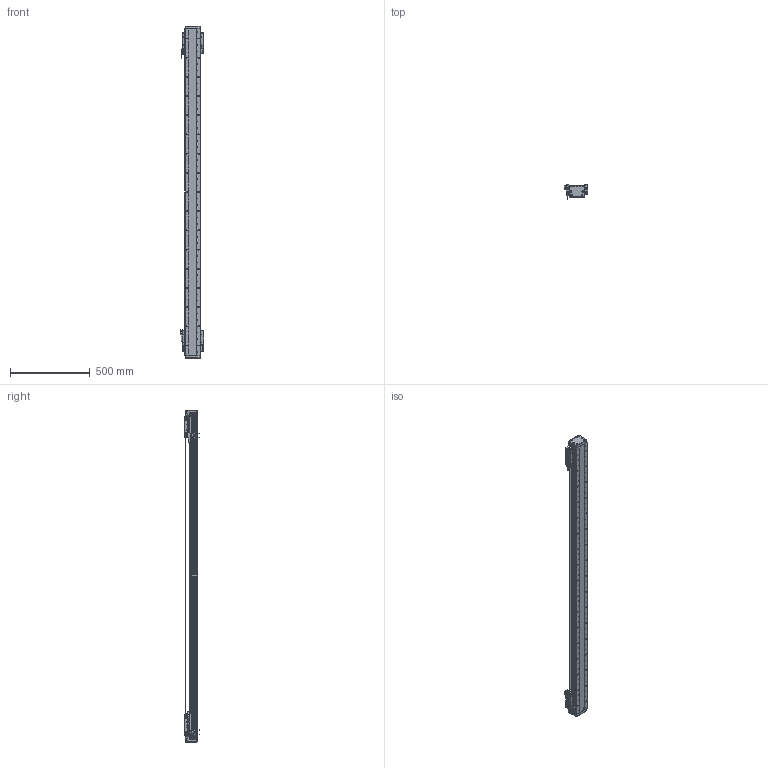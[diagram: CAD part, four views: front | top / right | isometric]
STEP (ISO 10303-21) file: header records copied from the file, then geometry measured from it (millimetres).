
FILE_DESCRIPTION (( 'STEP AP203' ), '1' );
FILE_NAME ('DA-B95-2-B15-T1700-C010-0.2 直线电机.STEP', '2023-05-06T06:33:14', ( '微软用户' ), ( '微软中国' ), 'SwSTEP 2.0', 'SolidWorks 2019', '' );
FILE_SCHEMA (( 'CONFIG_CONTROL_DESIGN' ));
Length unit declared in the file: millimetre
Products named in the file (34): 葩璃 BKMA01-W060-TRL^DA-A95-B15-T-C010-0.2-N 眻盄萇儂; 复件 DA95-HK-GT-00 滑块钢轨^66245-BU95-V-00 一体化滑动台板; 复件 DA95-B15-YB-B-00 压板B^66245-BU95-V 滚珠滑台; 复件 DKW-KGZ-ZJ-00 中间光电开关支架^DA-A95-B15-T-C010-0.2-N 直线电机; 复件 六角薄螺母 M3^DA-A95-B15-T-C010-0.2-N 直线电机_GB_FASTENER_NUT_STNAB M3-C; 66245-BU95-V 幗紩賑怢; 66245-BU95-V-00 珨极趙賑雄怢啣; 葩璃 BKM015-W060-C1-TP-DA-0.2^DA-A95-B15-T-C010-0.2-N 眻盄萇儂; 复件 DA95-DB-00  挡板^66245-BU95-V 滚珠滑台; DA-B95-2-B15-T1700-C010-0.2 眻盄萇儂; 葩璃 PM-Y45^DA-A95-B15-T-C010-0.2-N 眻盄萇儂; DA95-HXJ-00 缓冲橡胶^DA-A95-B15-T-C010-0.2-N 直线电机; 复件 复件 18252-0001-004-00 钢带端盖^DA-A95-B15-T-C010-0.2-N 直线电机; IU-BU95-L-00 菁釱_L2040; 葩璃 DA95-B15-DP--B-00 菜えB^66245-BU95-V 幗紩賑怢; PM-T45 光电开关^DA-A95-B15-T-C010-0.2-N 直线电机; 复件 DA95-B15-YB-A-00 压板A^66245-BU95-V 滚珠滑台; LMDK-2-R001-V5-L02-C1-F00，0.2M 读数头^DA-A95-B15-T-C010-0.2-N 直线电机_DMA-010-0.2; 复件 DA95-MFP-01 密封片^66245-BU95-V 滚珠滑台; 葩璃 DA95-GT-T-00^IU-BU95-L 菁釱絳寢_DA95; 复件 DKW-GYP-ZJ-00 中间光电感应片^DA-A95-B15-T-C010-0.2-N 直线电机; 葩璃 DA95-B15-DP-A-00 菜えA^66245-BU95-V 幗紩賑怢; B15 XD-U-02L ｴﾅﾕ､ｳﾟ^DA-A95-B15-T-C010-0.2-N ﾖｱﾏﾟｵ扈銈XD-U-02L; 复件 66245-BU95-HT-V-01 滑动台板^66245-BU95-V-00 一体化滑动台板; 复件 DA95-B15 钢带盖板^DA-A95-B15-T-C010-0.2-N 直线电机; IU-BU95-L 菁釱絳寢; 复件 纯铜油杯 6x6mm^66245-BU95-V 滚珠滑台; 复件 DKW-HXJ-JY-00 缓冲橡胶^DA-A95-B15-T-C010-0.2-N 直线电机; DA-A95-GYP-00 光电感应片^DA-A95-B15-T-C010-0.2-N 直线电机; 复件 复件 18252-0001-002-00 钢带垫块^DA-A95-B15-T-C010-0.2-N 直线电机; 复件 复件 18252-0001-003-00 钢带拉块^DA-A95-B15-T-C010-0.2-N 直线电机; 复件 DA95-DK-00 挡块^66245-BU95-V 滚珠滑台
Assembly tree (80 placements, depth 4):
  DA-B95-2-B15-T1700-C010-0.2 眻盄萇儂
    IU-BU95-L 菁釱絳寢
      IU-BU95-L-00 菁釱_L2040
      葩璃 DA95-GT-T-00^IU-BU95-L 菁釱絳寢_DA95  x2
    66245-BU95-V 幗紩賑怢
      66245-BU95-V-00 珨极趙賑雄怢啣
        复件 66245-BU95-HT-V-01 滑动台板^66245-BU95-V-00 一体化滑动台板
        复件 DA95-HK-GT-00 滑块钢轨^66245-BU95-V-00 一体化滑动台板  x2
      葩璃 DA95-B15-DP-A-00 菜えA^66245-BU95-V 幗紩賑怢
      复件 DA95-B15-YB-A-00 压板A^66245-BU95-V 滚珠滑台
      复件 DA95-B15-YB-B-00 压板B^66245-BU95-V 滚珠滑台
      复件 DA95-DB-00  挡板^66245-BU95-V 滚珠滑台  x4
      复件 DA95-DK-00 挡块^66245-BU95-V 滚珠滑台  x2
      复件 DA95-MFP-01 密封片^66245-BU95-V 滚珠滑台  x4
      复件 纯铜油杯 6x6mm^66245-BU95-V 滚珠滑台  x2
      葩璃 DA95-B15-DP--B-00 菜えB^66245-BU95-V 幗紩賑怢
    66245-BU95-V 幗紩賑怢
      66245-BU95-V-00 珨极趙賑雄怢啣
        复件 66245-BU95-HT-V-01 滑动台板^66245-BU95-V-00 一体化滑动台板
        复件 DA95-HK-GT-00 滑块钢轨^66245-BU95-V-00 一体化滑动台板  x2
      葩璃 DA95-B15-DP-A-00 菜えA^66245-BU95-V 幗紩賑怢
      复件 DA95-B15-YB-A-00 压板A^66245-BU95-V 滚珠滑台
      复件 DA95-B15-YB-B-00 压板B^66245-BU95-V 滚珠滑台
      复件 DA95-DB-00  挡板^66245-BU95-V 滚珠滑台  x4
      复件 DA95-DK-00 挡块^66245-BU95-V 滚珠滑台  x2
      复件 DA95-MFP-01 密封片^66245-BU95-V 滚珠滑台  x4
      复件 纯铜油杯 6x6mm^66245-BU95-V 滚珠滑台  x2
      葩璃 DA95-B15-DP--B-00 菜えB^66245-BU95-V 幗紩賑怢
    DA-A95-GYP-00 光电感应片^DA-A95-B15-T-C010-0.2-N 直线电机  x2
    LMDK-2-R001-V5-L02-C1-F00，0.2M 读数头^DA-A95-B15-T-C010-0.2-N 直线电机_DMA-010-0.2  x2
    复件 DKW-KGZ-ZJ-00 中间光电开关支架^DA-A95-B15-T-C010-0.2-N 直线电机
    葩璃 PM-Y45^DA-A95-B15-T-C010-0.2-N 眻盄萇儂
    复件 DKW-GYP-ZJ-00 中间光电感应片^DA-A95-B15-T-C010-0.2-N 直线电机
    葩璃 BKM015-W060-C1-TP-DA-0.2^DA-A95-B15-T-C010-0.2-N 眻盄萇儂  x2
    复件 DKW-HXJ-JY-00 缓冲橡胶^DA-A95-B15-T-C010-0.2-N 直线电机  x2
    PM-T45 光电开关^DA-A95-B15-T-C010-0.2-N 直线电机  x4
    B15 XD-U-02L ｴﾅﾕ､ｳﾟ^DA-A95-B15-T-C010-0.2-N ﾖｱﾏﾟｵ扈銈XD-U-02L
    复件 复件 18252-0001-003-00 钢带拉块^DA-A95-B15-T-C010-0.2-N 直线电机  x2
    复件 复件 18252-0001-002-00 钢带垫块^DA-A95-B15-T-C010-0.2-N 直线电机  x2
    复件 复件 18252-0001-004-00 钢带端盖^DA-A95-B15-T-C010-0.2-N 直线电机  x2
    复件 DA95-B15 钢带盖板^DA-A95-B15-T-C010-0.2-N 直线电机
    DA95-HXJ-00 缓冲橡胶^DA-A95-B15-T-C010-0.2-N 直线电机  x4
    葩璃 BKMA01-W060-TRL^DA-A95-B15-T-C010-0.2-N 眻盄萇儂
    复件 六角薄螺母 M3^DA-A95-B15-T-C010-0.2-N 直线电机_GB_FASTENER_NUT_STNAB M3-C  x6
Bounding box: 145.4 x 90.2 x 2076 mm (x, y, z)
Volume: 6988171.5 mm3; surface area: 2292964.2 mm2
Topology: 75 solids, 93 shells, 3996 faces, 11068 edges, 6991 vertices
Faces by surface type: cylinder 1997, plane 1467, cone 464, torus 64, sphere 4
Entity records: 91300 total; most frequent: CARTESIAN_POINT 22898, ORIENTED_EDGE 13494, DIRECTION 13272, EDGE_CURVE 6747, AXIS2_PLACEMENT_3D 5029, VERTEX_POINT 4393, LINE 3214, VECTOR 3214
